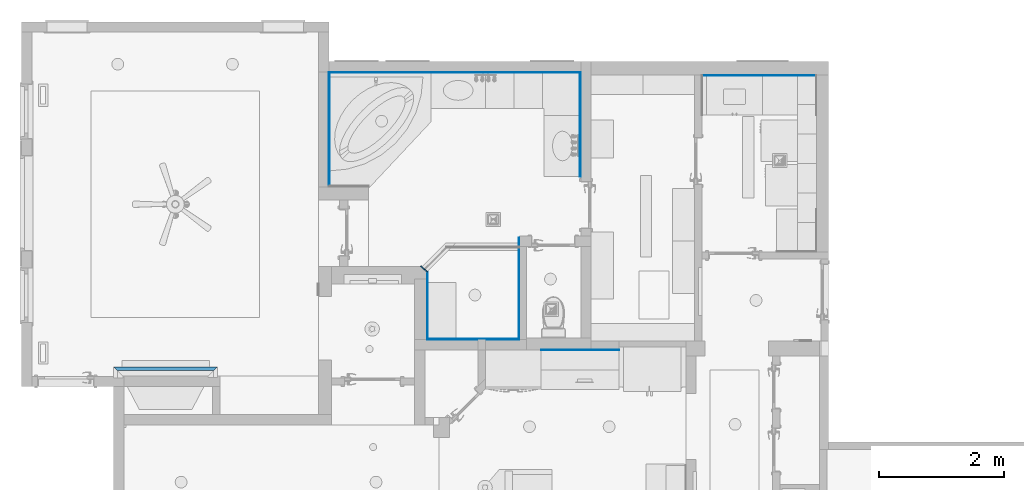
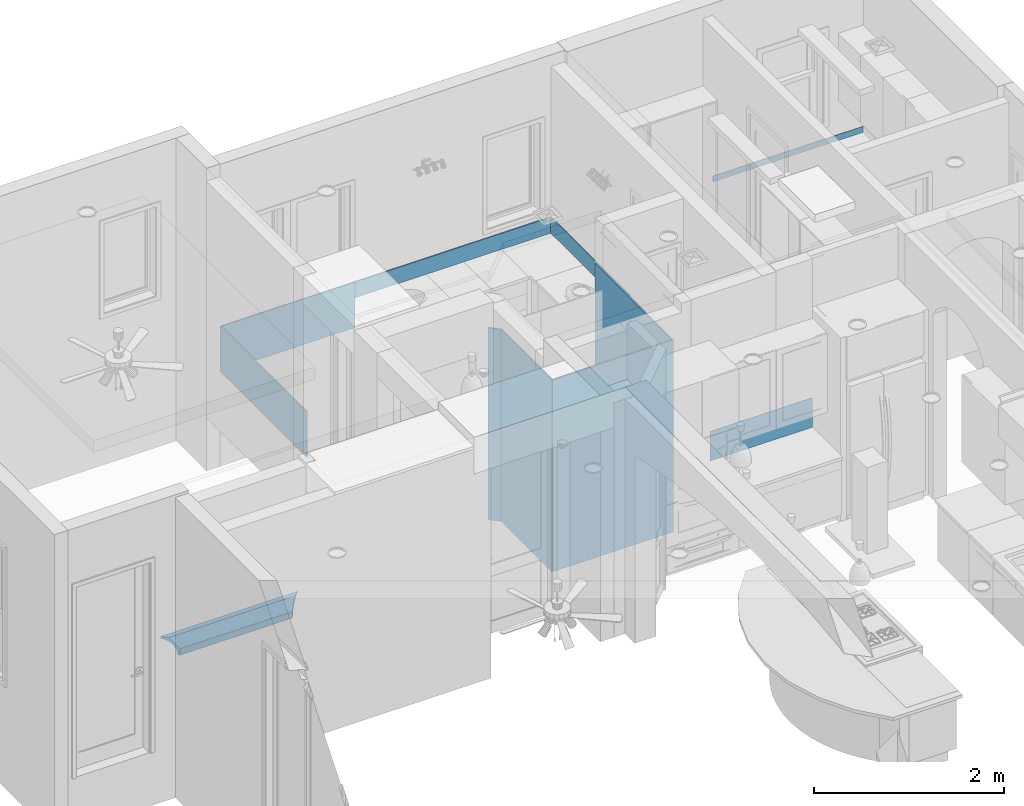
# One storey, part 3 of 77: 11 beams.
"""IFC2X3 building model written with IfcOpenShell, lengths in inches."""

from ifc_helpers import new_model, entity, si_unit, converted_unit, derived_unit, money_unit, direction, frame, origin_with_axes, place, context, subcontext, project, spatial, faceted_brep, material, type_object, element, save


model = new_model("IFC2X3")

# Units and contexts
model_context = context("Model", 3, precision=0.000393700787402, world=origin_with_axes(), true_north=direction((0.0, 1.0)))
body_context = subcontext(model_context, "Body", "Model", "MODEL_VIEW")
ifc_project = project(units=[converted_unit("LENGTHUNIT", "INCH", entity("IfcPositiveLengthMeasure", 0.0254), si_unit("LENGTHUNIT", "METRE"), dimensions=[1, 0, 0, 0, 0, 0, 0]), converted_unit("AREAUNIT", "SQUARE_FOOT", entity("IfcPositiveLengthMeasure", 0.09290304), si_unit("AREAUNIT", "SQUARE_METRE"), dimensions=[2, 0, 0, 0, 0, 0, 0]), si_unit("PLANEANGLEUNIT", "RADIAN"), si_unit("SOLIDANGLEUNIT", "STERADIAN"), money_unit("USD"), converted_unit("TIMEUNIT", "Year", entity("IfcTimeMeasure", 31556926.0), si_unit("TIMEUNIT", "SECOND"), dimensions=[0, 0, 1, 0, 0, 0, 0]), si_unit("MASSUNIT", "GRAM", prefix="KILO"), si_unit("THERMODYNAMICTEMPERATUREUNIT", "DEGREE_CELSIUS"), si_unit("LUMINOUSINTENSITYUNIT", "LUMEN"), si_unit("ENERGYUNIT", "JOULE", prefix="MEGA"), derived_unit("THERMALCONDUCTANCEUNIT", [(si_unit("POWERUNIT", "WATT"), 1), (si_unit("LENGTHUNIT", "METRE"), -1), (si_unit("THERMODYNAMICTEMPERATUREUNIT", "KELVIN"), -1)]), derived_unit("SPECIFICHEATCAPACITYUNIT", [(si_unit("ENERGYUNIT", "JOULE"), 1), (si_unit("MASSUNIT", "GRAM", prefix="KILO"), -1), (si_unit("THERMODYNAMICTEMPERATUREUNIT", "KELVIN"), -1)]), derived_unit("MASSDENSITYUNIT", [(si_unit("MASSUNIT", "GRAM", prefix="KILO"), 1), (si_unit("VOLUMEUNIT", "CUBIC_METRE"), -1)])], contexts=[model_context])

# Site, building, storey
site_placement = place(None, origin_with_axes())
site = spatial("IfcSite", under=ifc_project, at=site_placement, Name="Site", CompositionType="ELEMENT")
building_placement = place(site_placement, origin_with_axes())
building = spatial("IfcBuilding", under=site, at=building_placement, Name="Building", CompositionType="ELEMENT")
storey_placement = place(building_placement, frame((0.0, 0.0, 127.952755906), z_axis=(0.0, 0.0, 1.0), x_axis=(1.0, 0.0, 0.0)))
storey = spatial("IfcBuildingStorey", under=building, at=storey_placement, Name="Second Floor", CompositionType="ELEMENT", Elevation=127.953)

# Beams
ifc_material_1 = material(Name="Generic - Structural")
beam_type_1 = type_object("IfcBeamType", Name="Plaster Cornice/Coving 150 x 205", PredefinedType="NOTDEFINED")
beam_1_placement = place(storey_placement, frame((283.88086674, 391.90717228, 46.8503937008), z_axis=(0.0, 0.0, 1.0), x_axis=(0.0, -1.0, 0.0)))
element("IfcBeam", 1, at=beam_1_placement, inside=storey, type_object=beam_type_1, material=ifc_material_1, Name="BMR - 041", context=body_context, shape_type="Brep", body=[
    faceted_brep([(-5.90552638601, -5.90552611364, -1.0088593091), (-5.90552638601, 59.3934605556, -1.0088593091), (-4.88176828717, 58.3697020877, -1.14877721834), (-4.88176828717, -4.88176806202, -1.14877721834), (-5.90552638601, -5.90552611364, 0.0), (-5.90552638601, 59.3934605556, 0.0), (-3.45937726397, 56.9473105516, 0.0), (0.0, 53.4879320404, -4.72780880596), (0.0, 53.4879320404, -8.07087447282), (-0.738190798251, 54.2261231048, -8.07087447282), (-0.835718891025, 54.3236512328, -6.70518667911), (-1.13153079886, 54.6194632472, -5.36835827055), (-1.5951648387, 55.0830974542, -4.17566887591), (-2.25166835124, 55.7396012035, -3.07727566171), (-3.00852865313, 56.4964617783, -2.22277367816), (-3.9280726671, 57.4160061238, -1.54642320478), (-3.9280726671, -3.92807248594, -1.54642320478), (-3.00852865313, -3.00852851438, -2.22277367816), (-2.25166835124, -2.25166824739, -3.07727566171), (-1.5951648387, -1.59516476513, -4.17566887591), (-1.13153079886, -1.13153074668, -5.36835827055), (-0.835718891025, -0.835718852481, -6.70518667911), (-0.738190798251, -0.738190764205, -8.07087447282), (0.0, 0.0, -8.07087447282), (0.0, 0.0, -4.72780880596), (-3.45937726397, -3.45937710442, 0.0)], [[[0, 1, 2, 3]], [[4, 5, 1, 0]], [[2, 1, 5, 6, 7, 8, 9, 10, 11, 12, 13, 14, 15]], [[3, 2, 15, 16]], [[4, 0, 3, 16, 17, 18, 19, 20, 21, 22, 23, 24, 25]], [[25, 6, 5, 4]], [[24, 7, 6, 25]], [[23, 8, 7, 24]], [[22, 9, 8, 23]], [[21, 10, 9, 22]], [[20, 11, 10, 21]], [[19, 12, 11, 20]], [[18, 13, 12, 19]], [[17, 14, 13, 18]], [[16, 15, 14, 17]]]),
])
ifc_material_2 = material(Name="Tile - Wall")
beam_type_2 = type_object("IfcBeamType", Name="Tile - Wall 5 x 380", PredefinedType="NOTDEFINED")
beam_2_placement = place(storey_placement, frame((595.489660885, 408.408081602, 35.0393700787), z_axis=(0.0, 0.0, 1.0), x_axis=(0.0, 1.0, 0.0)))
element("IfcBeam", 2, at=beam_2_placement, inside=storey, type_object=beam_type_2, material=ifc_material_2, Name="BMR - 041", context=body_context, shape_type="Brep", body=[
    faceted_brep([(0.0, 0.0, 0.0), (-0.196850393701, 0.0, 0.0), (-0.196850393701, 49.000045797, 0.0), (0.0, 49.000045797, 0.0), (0.0, 0.0, 14.9606299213), (-0.196850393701, 0.0, 14.9606299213), (-0.196850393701, 49.000045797, 14.9606299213), (0.0, 49.000045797, 14.9606299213)], [[[0, 1, 2, 3]], [[4, 5, 1, 0]], [[1, 5, 6, 2]], [[7, 3, 2, 6]], [[4, 0, 3, 7]], [[5, 4, 7, 6]]]),
])
beam_type_3 = type_object("IfcBeamType", Name="Tile - Wall 15 x 205", PredefinedType="NOTDEFINED")
beam_3_placement = place(storey_placement, frame((571.489649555, 517.233896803, 36.0), z_axis=(0.0, 0.0, 1.0), x_axis=(1.0, 0.0, 0.0)))
element("IfcBeam", 3, at=beam_3_placement, inside=storey, type_object=beam_type_3, material=ifc_material_2, Name="BMR - 112", context=body_context, shape_type="Brep", body=[
    faceted_brep([(-0.590551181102, 0.0, 0.0), (-0.000840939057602, 0.0, 0.0), (-0.000840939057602, 0.0, 8.07086614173), (-0.590551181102, 0.0, 8.07086614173), (-0.590551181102, 65.1574796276, 0.0), (-0.00134074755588, 65.1574796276, 0.0), (-0.00134074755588, 65.1574796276, 8.07086614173), (-0.590551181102, 65.1574796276, 8.07086614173)], [[[0, 1, 2, 3]], [[4, 5, 1, 0]], [[5, 6, 2, 1]], [[3, 2, 6, 7]], [[0, 3, 7, 4]], [[7, 6, 5, 4]]]),
])
beam_4_placement = place(storey_placement, frame((571.489649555, 582.981927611, 36.0), z_axis=(0.0, 0.0, 1.0), x_axis=(0.0, 1.0, 0.0)))
element("IfcBeam", 4, at=beam_4_placement, inside=storey, type_object=beam_type_3, material=ifc_material_2, Name="BMR - 113", context=body_context, shape_type="Brep", body=[
    faceted_brep([(-0.590551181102, 94.0000080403, 8.07086614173), (-0.590551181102, 0.00134074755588, 8.07086614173), (0.0, 0.00134527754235, 8.07086614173), (0.0, 94.0000080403, 8.07086614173), (-0.590551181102, 94.0000080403, 0.0), (-0.590551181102, 0.00134074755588, 0.0), (0.0, 0.00134527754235, 0.0), (0.0, 94.0000080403, 0.0)], [[[0, 1, 2, 3]], [[4, 5, 1, 0]], [[5, 6, 2, 1]], [[3, 2, 6, 7]], [[3, 7, 4, 0]], [[7, 6, 5, 4]]]),
])
beam_type_4 = type_object("IfcBeamType", Name="Tile - Wall 6 x 76", PredefinedType="NOTDEFINED")
beam_5_placement = place(storey_placement, frame((719.519431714, 581.014426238, 36.0), z_axis=(0.0, 0.0, 1.0), x_axis=(-1.1728039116e-09, 1.0, 0.0)))
element("IfcBeam", 5, at=beam_5_placement, inside=storey, type_object=beam_type_4, material=ifc_material_2, Name="BMR - 041", context=body_context, shape_type="Brep", body=[
    faceted_brep([(-0.25, 0.249999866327, 0.0), (-0.25, 71.779788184, 0.0), (0.0, 72.0297883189, 0.0), (0.0, 0.0, 0.0), (-0.25, 0.249999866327, 3.0), (-0.25, 71.779788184, 3.0), (0.0, 72.0297883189, 3.0), (0.0, 0.0, 3.0)], [[[0, 1, 2, 3]], [[4, 5, 1, 0]], [[2, 1, 5, 6]], [[3, 2, 6, 7]], [[4, 0, 3, 7]], [[7, 6, 5, 4]]]),
])
beam_type_5 = type_object("IfcBeamType", Name="Tile - Wall 15 x 585", PredefinedType="NOTDEFINED")
beam_6_placement = place(storey_placement, frame((477.489641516, 582.981927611, 20.9999999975), z_axis=(0.0, 0.0, 1.0), x_axis=(0.0, 1.0, 0.0)))
element("IfcBeam", 6, at=beam_6_placement, inside=storey, type_object=beam_type_5, material=ifc_material_2, Name="BMR - 113", context=body_context, shape_type="Brep", body=[
    faceted_brep([(-0.590551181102, 0.0, 0.0), (-0.590551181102, 63.6594469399, 0.0), (0.0, 64.2499981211, 0.0), (0.0, 0.0, 0.0), (-0.590551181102, 0.0, 23.031496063), (-0.590551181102, 63.6594469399, 23.031496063), (0.0, 64.2499981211, 23.031496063), (0.0, 0.0, 23.031496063)], [[[0, 1, 2, 3]], [[4, 5, 1, 0]], [[2, 1, 5, 6]], [[3, 2, 6, 7]], [[4, 0, 3, 7]], [[7, 6, 5, 4]]]),
])
beam_7_placement = place(storey_placement, frame((413.239643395, 582.981927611, 20.999999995), z_axis=(0.0, 0.0, 1.0), x_axis=(-1.0, 0.0, 0.0)))
element("IfcBeam", 7, at=beam_7_placement, inside=storey, type_object=beam_type_5, material=ifc_material_2, Name="BMR - 114", context=body_context, shape_type="Brep", body=[
    faceted_brep([(-0.590551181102, 0.590551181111, 0.0), (-0.590551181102, 71.5780760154, 0.0), (0.0, 72.1686271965, 0.0), (0.0, 0.0, 0.0), (-0.590551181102, 0.590551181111, 23.031496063), (-0.590551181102, 71.5780760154, 23.031496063), (0.0, 72.1686271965, 23.031496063), (0.0, 0.0, 23.031496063)], [[[0, 1, 2, 3]], [[4, 5, 1, 0]], [[2, 1, 5, 6]], [[3, 2, 6, 7]], [[4, 0, 3, 7]], [[7, 6, 5, 4]]]),
])
beam_type_6 = type_object("IfcBeamType", Name="Tile - Wall 15 x 2465", PredefinedType="NOTDEFINED")
beam_8_placement = place(storey_placement, frame((470.739643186, 460.830823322, 0.0), z_axis=(0.0, 0.0, 1.0), x_axis=(-0.684090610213, -0.729397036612, 0.0)))
element("IfcBeam", 8, at=beam_8_placement, inside=storey, type_object=beam_type_6, material=ifc_material_2, Name="BMR - 004", context=body_context, shape_type="Brep", body=[
    faceted_brep([(-0.587699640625, 5.912457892, 97.0472440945), (-0.587699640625, 5.912457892, 0.0157480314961), (-0.590551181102, 5.912457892, 0.0157480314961), (-0.590551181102, 5.912457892, 97.0472440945), (-0.589071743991, 5.9111710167, 97.0472440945), (-0.589071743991, 5.9111710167, 0.0157480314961), (-0.0469199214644, 5.31188095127, 0.0157480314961), (-0.590551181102, 5.3293100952, 0.0157480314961), (-0.185081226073, 5.48042473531, 0.0157480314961), (0.0, 5.65400965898, 0.0157480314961), (0.0, 0.0, 0.0157480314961), (-0.590551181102, 0.0, 0.0157480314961), (-0.590551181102, 0.826997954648, 0.0157480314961), (-0.191118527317, 0.814191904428, 0.0157480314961), (-0.590551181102, 0.826997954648, 5.0), (-0.590551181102, 0.0, 97.0472440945), (-0.590551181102, 5.3293100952, 5.0), (0.0, 0.0, 97.0472440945), (0.0, 5.65400965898, 97.0472440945), (-0.185081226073, 5.48042473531, 97.0472440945), (-0.0469199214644, 5.31188095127, 5.0), (-0.191118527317, 0.814191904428, 5.0)], [[[0, 1, 2, 3]], [[4, 5, 1, 0]], [[6, 7, 2, 1, 5, 8, 9, 10, 11, 12, 13]], [[14, 12, 11, 15, 3, 2, 7, 16]], [[3, 15, 17, 18, 19, 4, 0]], [[19, 8, 5, 4]], [[16, 7, 6, 20]], [[18, 9, 8, 19]], [[17, 10, 9, 18]], [[15, 11, 10, 17]], [[21, 13, 12, 14]], [[20, 6, 13, 21]], [[20, 21, 14, 16]]]),
])
beam_9_placement = place(storey_placement, frame((474.863661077, 457.216713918, 0.0), z_axis=(0.0, 0.0, 1.0), x_axis=(-1.0, -1.75982826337e-10, 0.0)))
element("IfcBeam", 9, at=beam_9_placement, inside=storey, type_object=beam_type_6, material=ifc_material_2, Name="BMR - 004", context=body_context, shape_type="Brep", body=[
    faceted_brep([(-0.590551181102, 41.7180811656, 97.0472440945), (-0.590551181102, 41.7180811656, 0.0157480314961), (-0.590551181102, 0.0, 0.0157480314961), (-0.590551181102, 0.0, 97.0472440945), (-0.125982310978, 41.7180811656, 97.0472440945), (-0.125982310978, 41.7180811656, 0.0157480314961), (0.0, 42.3086323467, 0.0157480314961), (0.0, 0.0, 0.0157480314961), (-0.125982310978, 42.3086323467, 0.0157480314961), (0.0, 0.0, 97.0472440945), (0.0, 42.3086323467, 97.0472440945), (-0.125982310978, 42.3086323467, 97.0472440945)], [[[0, 1, 2, 3]], [[4, 5, 1, 0]], [[6, 7, 2, 1, 5, 8]], [[3, 2, 7, 9]], [[3, 9, 10, 11, 4, 0]], [[11, 8, 5, 4]], [[9, 7, 6, 10]], [[10, 6, 8, 11]]]),
])
beam_10_placement = place(storey_placement, frame((474.989643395, 414.908081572, 0.0), z_axis=(0.0, 0.0, 1.0), x_axis=(1.75982493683e-10, -1.0, 0.0)))
element("IfcBeam", 10, at=beam_10_placement, inside=storey, type_object=beam_type_6, material=ifc_material_2, Name="BMR - 004", context=body_context, shape_type="Brep", body=[
    faceted_brep([(0.0, 0.0, 97.0472440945), (0.0, 0.0, 0.0157480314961), (0.0, 57.9279503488, 0.0157480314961), (0.0, 57.9279503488, 97.0472440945), (-0.590551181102, 0.0, 97.0472440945), (-0.590551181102, 0.0, 0.0157480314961), (-0.590551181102, 57.3373991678, 0.0157480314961), (-0.590551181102, 57.3373991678, 97.0472440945)], [[[0, 1, 2, 3]], [[4, 5, 1, 0]], [[5, 6, 2, 1]], [[3, 2, 6, 7]], [[7, 4, 0, 3]], [[7, 6, 5, 4]]]),
])
beam_11_placement = place(storey_placement, frame((532.917593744, 414.908081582, 0.0), z_axis=(0.0, 0.0, 1.0), x_axis=(1.0, 0.0, 0.0)))
element("IfcBeam", 11, at=beam_11_placement, inside=storey, type_object=beam_type_6, material=ifc_material_2, Name="BMR - 004", context=body_context, shape_type="Brep", body=[
    faceted_brep([(0.000141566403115, 60.5303407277, 5.0), (0.000141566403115, 60.5303407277, 0.0157480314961), (0.0, 64.0955284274, 0.0157480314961), (0.0, 64.0955284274, 97.0472440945), (0.0, 0.0, 97.0472440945), (0.0, 0.0, 0.0157480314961), (0.000141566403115, 56.0303407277, 0.0157480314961), (0.000141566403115, 56.0303407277, 5.0), (-0.590551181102, 60.5303407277, 5.0), (-0.590551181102, 60.5303407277, 0.0157480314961), (-0.590551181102, 64.0955284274, 0.0157480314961), (-0.590551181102, 64.0955284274, 97.0472440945), (-0.590551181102, 0.590551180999, 97.0472440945), (-0.590551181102, 0.590551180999, 0.0157480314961), (-0.590551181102, 56.0303407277, 0.0157480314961), (-0.590551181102, 56.0303407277, 5.0)], [[[0, 1, 2, 3, 4, 5, 6, 7]], [[8, 9, 1, 0]], [[9, 10, 2, 1]], [[3, 2, 10, 11]], [[11, 12, 4, 3]], [[12, 13, 5, 4]], [[13, 14, 6, 5]], [[7, 6, 14, 15]], [[15, 8, 0, 7]], [[11, 10, 9, 8, 15, 14, 13, 12]]]),
])

save(model, "model.ifc")
